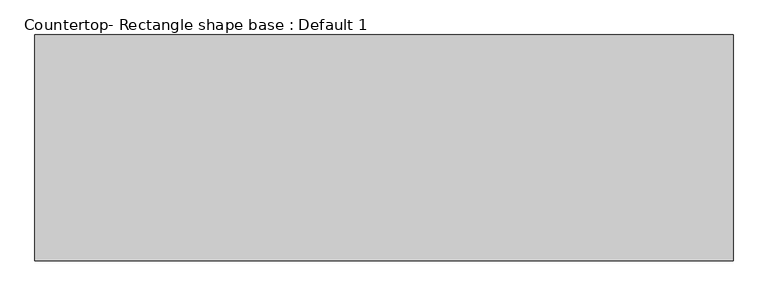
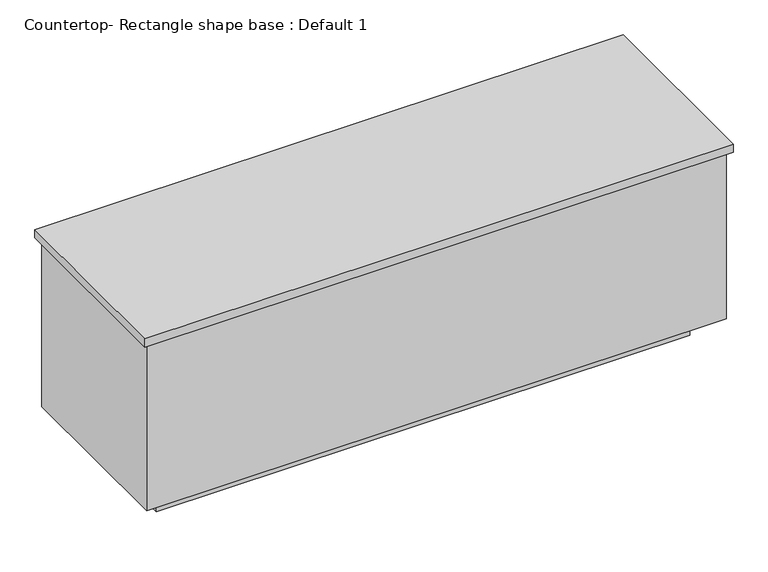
"""IFC4 building model written with IfcOpenShell, lengths in millimetres: proxy geometry, Countertop- Rectangle shape base : Default 1."""

from ifc_helpers import new_model, si_unit, frame, origin, origin_with_axes, place, context, project, spatial, polyline, outline, extrude, source, transform, mapped, element, save


def countertop_rectangle_shape_base_default_1_59e20eb9(model_context):
    return source(origin(), model_context, "Body", "SweptSolid", [
        extrude(outline(polyline([(-523.875, -34.925), (-523.875, 796.925), (2047.875, 796.925), (2047.875, -34.925), (-523.875, -34.925)])), frame((0.0, 0.0, 876.3), z_axis=(0.0, 0.0, 1.0), x_axis=(1.0, 0.0, 0.0)), (0.0, 0.0, 1.0), 38.1),
        extrude(outline(polyline([(2028.825, 777.875), (2028.825, -15.875), (-504.825, -15.875), (-504.825, 777.875), (2028.825, 777.875)])), frame((0.0, 0.0, 101.6), z_axis=(0.0, 0.0, 1.0), x_axis=(1.0, 0.0, 0.0)), (0.0, 0.0, 1.0), 774.7),
        extrude(outline(polyline([(1927.225, 676.275), (1927.225, 85.725), (-403.225, 85.725), (-403.225, 676.275), (1927.225, 676.275)])), origin_with_axes(), (0.0, 0.0, 1.0), 101.6),
    ])


if __name__ == "__main__":
    model = new_model("IFC4")
    model_context = context("Model", 3, world=origin())
    ifc_project = project(units=[si_unit("LENGTHUNIT", "METRE", prefix="MILLI")], contexts=[model_context])
    site = spatial("IfcSite", under=ifc_project)
    building = spatial("IfcBuilding", under=site)
    placement = place(None, origin())
    countertop_rectangle_shape_base_default_1_shape = countertop_rectangle_shape_base_default_1_59e20eb9(model_context)
    element("IfcBuildingElementProxy", 1, Name="Countertop- Rectangle shape base : Default 1", ObjectType="Countertop- Rectangle shape base : Default 1", at=placement, inside=building, context=model_context, shape_type="MappedRepresentation", body=[
        mapped(countertop_rectangle_shape_base_default_1_shape, transform((0.0, 0.0, 0.0), x_axis=(1.0, 0.0, 0.0), y_axis=(0.0, 1.0, 0.0), z_axis=(0.0, 0.0, 1.0))),
    ])
    save(model, "model.ifc")
